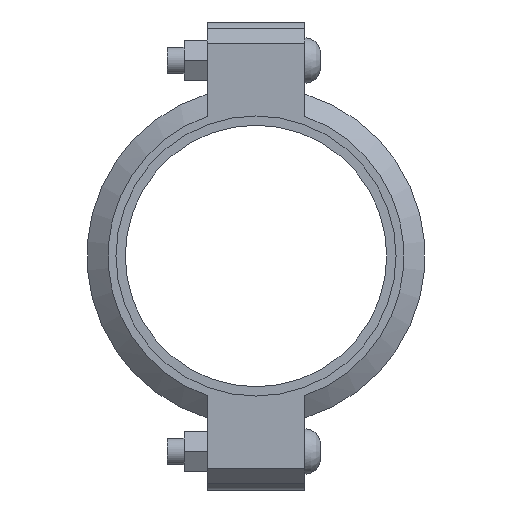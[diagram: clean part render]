
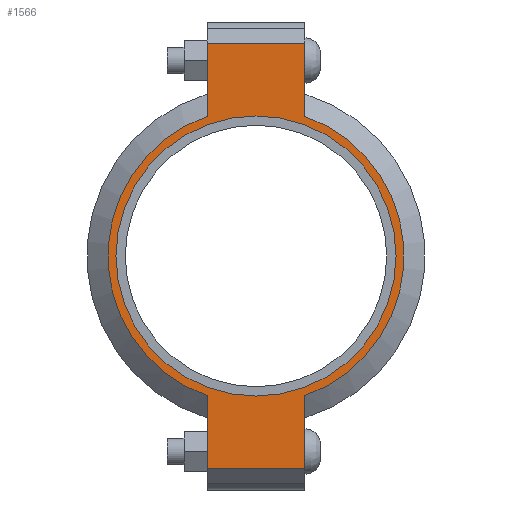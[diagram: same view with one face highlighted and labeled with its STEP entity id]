
A CAD part, left-side view. The second image highlights one B-rep face of the part: STEP entity #1566.
In plain terms, the highlighted planar face has unit normal (-1, 0, 0) as drawn and (0, 0, 1) by its records, which use the part's own axes.
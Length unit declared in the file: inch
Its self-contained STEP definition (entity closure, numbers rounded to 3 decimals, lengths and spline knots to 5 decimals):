
#190=LINE('',#2733,#283);
#198=LINE('',#2769,#291);
#205=LINE('',#2790,#298);
#214=LINE('',#2822,#307);
#215=LINE('',#2826,#308);
#216=LINE('',#2828,#309);
#283=VECTOR('',#2225,0.3937);
#291=VECTOR('',#2241,0.3937);
#298=VECTOR('',#2260,0.3937);
#307=VECTOR('',#2285,0.3937);
#308=VECTOR('',#2290,0.3937);
#309=VECTOR('',#2291,0.3937);
#365=FACE_BOUND('',#543,.T.);
#437=FACE_OUTER_BOUND('',#542,.T.);
#542=EDGE_LOOP('',(#1307,#1308,#1309,#1310,#1311,#1312,#1313,#1314));
#543=EDGE_LOOP('',(#1315));
#615=CIRCLE('',#1785,3.3125);
#641=CIRCLE('',#1844,3.5);
#642=CIRCLE('',#1845,3.5);
#707=VERTEX_POINT('',#2549);
#750=VERTEX_POINT('',#2730);
#751=VERTEX_POINT('',#2732);
#762=VERTEX_POINT('',#2764);
#763=VERTEX_POINT('',#2768);
#770=VERTEX_POINT('',#2787);
#771=VERTEX_POINT('',#2789);
#781=VERTEX_POINT('',#2825);
#782=VERTEX_POINT('',#2827);
#863=EDGE_CURVE('',#707,#707,#615,.T.);
#924=EDGE_CURVE('',#751,#750,#190,.T.);
#938=EDGE_CURVE('',#763,#762,#198,.T.);
#948=EDGE_CURVE('',#771,#770,#205,.T.);
#963=EDGE_CURVE('',#763,#750,#214,.T.);
#964=EDGE_CURVE('',#762,#771,#641,.T.);
#965=EDGE_CURVE('',#781,#770,#215,.T.);
#966=EDGE_CURVE('',#781,#782,#216,.T.);
#967=EDGE_CURVE('',#782,#751,#642,.T.);
#1307=ORIENTED_EDGE('',*,*,#963,.F.);
#1308=ORIENTED_EDGE('',*,*,#938,.T.);
#1309=ORIENTED_EDGE('',*,*,#964,.T.);
#1310=ORIENTED_EDGE('',*,*,#948,.T.);
#1311=ORIENTED_EDGE('',*,*,#965,.F.);
#1312=ORIENTED_EDGE('',*,*,#966,.T.);
#1313=ORIENTED_EDGE('',*,*,#967,.T.);
#1314=ORIENTED_EDGE('',*,*,#924,.T.);
#1315=ORIENTED_EDGE('',*,*,#863,.T.);
#1408=PLANE('',#1843);
#1566=ADVANCED_FACE('',(#437,#365),#1408,.T.);
#1785=AXIS2_PLACEMENT_3D('',#2551,#2101,#2102);
#1843=AXIS2_PLACEMENT_3D('',#2823,#2286,#2287);
#1844=AXIS2_PLACEMENT_3D('',#2824,#2288,#2289);
#1845=AXIS2_PLACEMENT_3D('',#2829,#2292,#2293);
#2101=DIRECTION('center_axis',(0.,0.,-1.));
#2102=DIRECTION('ref_axis',(-1.,0.,0.));
#2225=DIRECTION('',(-1.,0.,0.));
#2241=DIRECTION('',(1.,0.,0.));
#2260=DIRECTION('',(1.,0.,0.));
#2285=DIRECTION('',(0.,1.,0.));
#2286=DIRECTION('center_axis',(0.,0.,1.));
#2287=DIRECTION('ref_axis',(1.,0.,0.));
#2288=DIRECTION('center_axis',(0.,0.,1.));
#2289=DIRECTION('ref_axis',(-1.,0.,0.));
#2290=DIRECTION('',(0.,-1.,0.));
#2291=DIRECTION('',(-1.,0.,0.));
#2292=DIRECTION('center_axis',(0.,0.,1.));
#2293=DIRECTION('ref_axis',(-1.,0.,0.));
#2549=CARTESIAN_POINT('',(3.3125,0.,1.065));
#2551=CARTESIAN_POINT('Origin',(0.,0.,1.065));
#2730=CARTESIAN_POINT('',(-5.035,1.156,1.065));
#2732=CARTESIAN_POINT('',(-3.30358,1.156,1.065));
#2733=CARTESIAN_POINT('',(-5.535,1.156,1.065));
#2764=CARTESIAN_POINT('',(-3.30358,-1.156,1.065));
#2768=CARTESIAN_POINT('',(-5.035,-1.156,1.065));
#2769=CARTESIAN_POINT('',(5.535,-1.156,1.065));
#2787=CARTESIAN_POINT('',(5.035,-1.156,1.065));
#2789=CARTESIAN_POINT('',(3.30358,-1.156,1.065));
#2790=CARTESIAN_POINT('',(5.535,-1.156,1.065));
#2822=CARTESIAN_POINT('',(-5.035,0.578,1.065));
#2823=CARTESIAN_POINT('Origin',(0.,0.,1.065));
#2824=CARTESIAN_POINT('Origin',(0.,0.,1.065));
#2825=CARTESIAN_POINT('',(5.035,1.156,1.065));
#2826=CARTESIAN_POINT('',(5.035,-0.578,1.065));
#2827=CARTESIAN_POINT('',(3.30358,1.156,1.065));
#2828=CARTESIAN_POINT('',(-5.535,1.156,1.065));
#2829=CARTESIAN_POINT('Origin',(0.,0.,1.065));
